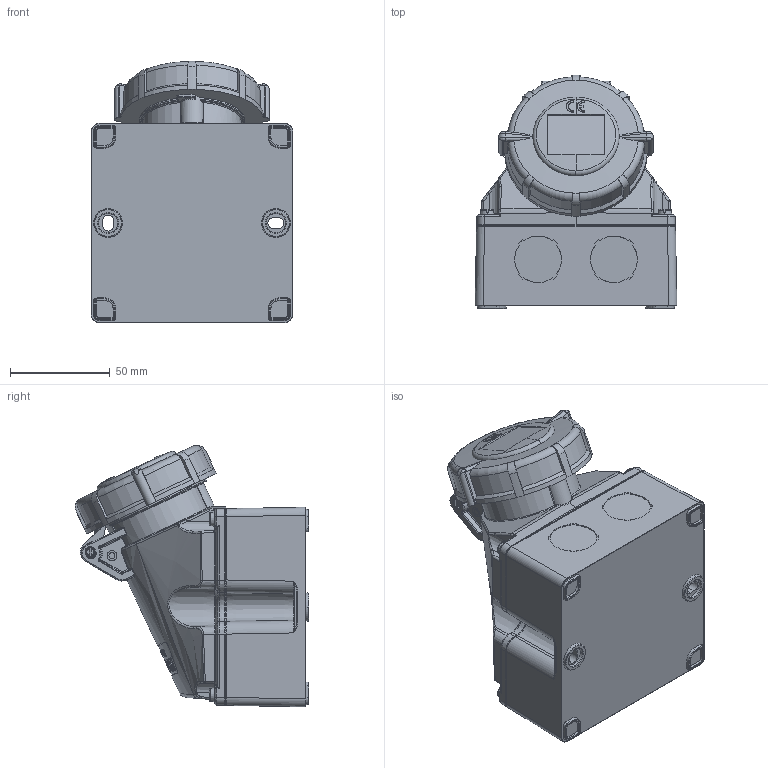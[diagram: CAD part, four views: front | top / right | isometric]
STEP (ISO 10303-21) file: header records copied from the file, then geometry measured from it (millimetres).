
FILE_DESCRIPTION((''),'2;1');
FILE_NAME('9105_SW0001','2017-11-16T',('gisse'),('MENNEKES'),'PRO/ENGINEER BY PARAMETRIC TECHNOLOGY CORPORATION, 2015440','PRO/ENGINEER BY PARAMETRIC TECHNOLOGY CORPORATION, 2015440','');
FILE_SCHEMA(('AUTOMOTIVE_DESIGN { 1 0 10303 214 1 1 1 1 }'));
Products named in the file (1): 9105_SW0001
Bounding box: 100.99 x 116.94 x 130.97 mm (x, y, z)
Volume: 742498.6 mm3; surface area: 62407.8 mm2
Topology: 1 solids, 2 shells, 1617 faces, 4129 edges, 2572 vertices
Faces by surface type: plane 566, cylinder 311, bspline 270, extrusion 242, torus 98, cone 90, sphere 40
Entity records: 99999 total; most frequent: CARTESIAN_POINT 31654, ORIENTED_EDGE 8254, PRESENTATION_STYLE_ASSIGNMENT 5971, DIRECTION 5898, STYLED_ITEM 4370, CURVE_STYLE 4369, EDGE_CURVE 4127, FILL_AREA_STYLE_COLOUR 3203
